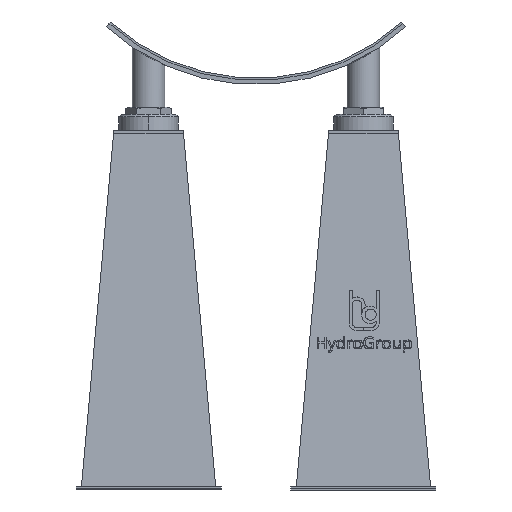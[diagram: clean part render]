
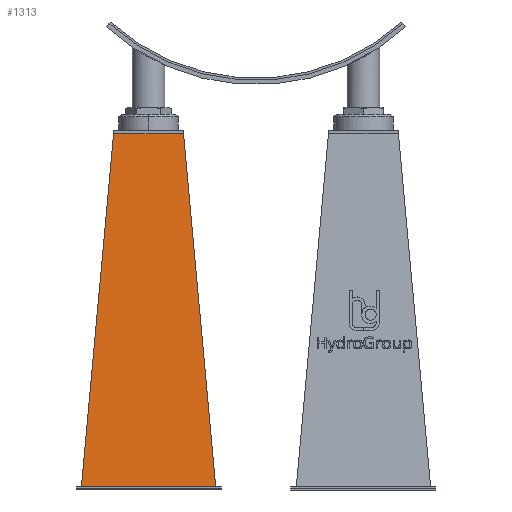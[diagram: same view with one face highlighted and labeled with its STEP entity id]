
A CAD part, front view. The second image highlights one B-rep face of the part: STEP entity #1313.
In plain terms, the highlighted planar face has unit normal (0, -0.996, 0.091).
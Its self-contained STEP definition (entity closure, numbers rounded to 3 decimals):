
#1313=ADVANCED_FACE('',(#2624),#2625,.T.);
#2624=FACE_OUTER_BOUND('',#4009,.T.);
#2625=PLANE('',#4010);
#4009=EDGE_LOOP('',(#8022,#8023,#8024,#8025));
#4010=AXIS2_PLACEMENT_3D('',#8026,#8027,#8028);
#8022=ORIENTED_EDGE('',*,*,#9571,.T.);
#8023=ORIENTED_EDGE('',*,*,#9588,.F.);
#8024=ORIENTED_EDGE('',*,*,#9558,.T.);
#8025=ORIENTED_EDGE('',*,*,#9318,.T.);
#8026=CARTESIAN_POINT('',(594.44,786.215,-476.062));
#8027=DIRECTION('',(0.,-0.996,0.091));
#8028=DIRECTION('',(-1.0,0.,0.));
#9318=EDGE_CURVE('',#11314,#11312,#11315,.F.);
#9558=EDGE_CURVE('',#11628,#11314,#11629,.F.);
#9571=EDGE_CURVE('',#11312,#11650,#11653,.T.);
#9588=EDGE_CURVE('',#11628,#11650,#11674,.T.);
#11312=VERTEX_POINT('',#15045);
#11314=VERTEX_POINT('',#15048);
#11315=LINE('',#15049,#15050);
#11628=VERTEX_POINT('',#15620);
#11629=LINE('',#15621,#15622);
#11650=VERTEX_POINT('',#15653);
#11653=LINE('',#15657,#15658);
#11674=LINE('',#15689,#15690);
#15045=CARTESIAN_POINT('',(531.428,726.19,-1133.335));
#15048=CARTESIAN_POINT('',(591.428,786.19,-476.335));
#15049=CARTESIAN_POINT('',(591.986,786.748,-470.224));
#15050=VECTOR('',#16867,1.);
#15620=CARTESIAN_POINT('',(721.453,786.19,-476.335));
#15621=CARTESIAN_POINT('',(625.44,786.19,-476.335));
#15622=VECTOR('',#17037,1.);
#15653=CARTESIAN_POINT('',(781.453,726.19,-1133.335));
#15657=CARTESIAN_POINT('',(625.44,726.19,-1133.335));
#15658=VECTOR('',#17049,1.);
#15689=CARTESIAN_POINT('',(720.895,786.748,-470.224));
#15690=VECTOR('',#17060,1.);
#16867=DIRECTION('',(0.091,0.091,0.992));
#17037=DIRECTION('',(1.0,0.,0.));
#17049=DIRECTION('',(1.0,0.,0.));
#17060=DIRECTION('',(0.091,-0.091,-0.992));
